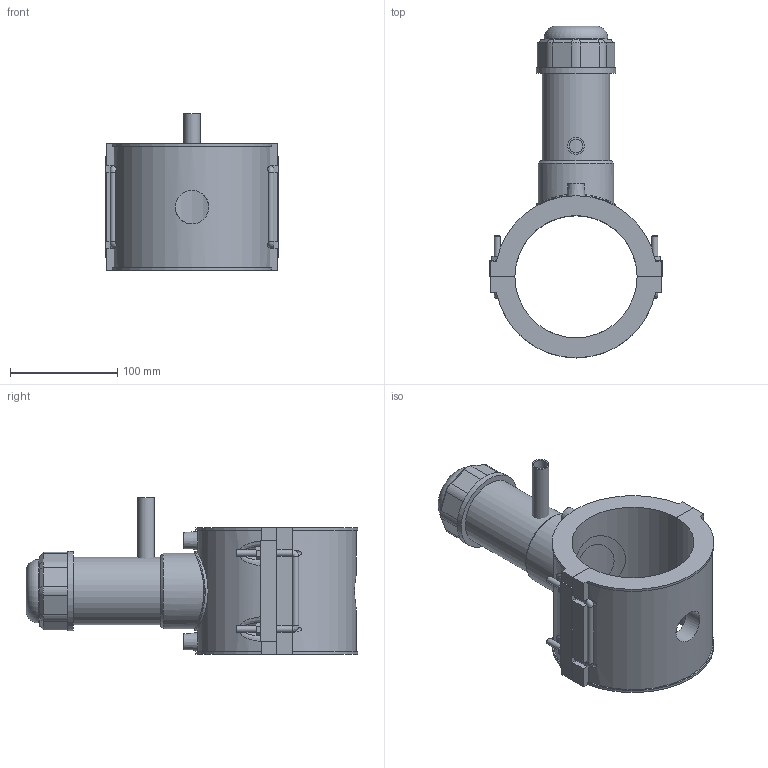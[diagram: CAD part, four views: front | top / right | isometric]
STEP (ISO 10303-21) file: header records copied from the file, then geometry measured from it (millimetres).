
FILE_DESCRIPTION(/* description */ ('PLASSON TAPPING SADDLE 4''''IPS x 1/2''''CTS'),/* implementation_level */ '2;1');
FILE_NAME(/* name */ 'C:\Dropbox\KIMPROJECTS-Inventor 2019\99-16-3568-Processing Inch\ASTM ElectroFusion 2021\5963BBP_5963BUP\5963BUP3040005.ipt.stp',/* time_stamp */ '2021-08-30T09:57:45+03:00',/* author */ ('KIM'),/* organization */ (''),/* preprocessor_version */ 'ST-DEVELOPER v17.2',/* originating_system */ 'Autodesk Inventor 2019',/* authorisation */ '');
FILE_SCHEMA (('AUTOMOTIVE_DESIGN { 1 0 10303 214 3 1 1 }'));
Length unit declared in the file: inch
Products named in the file (1): 5963BUP3040005
Bounding box: 161 x 309.74 x 146.43 mm (x, y, z)
Volume: 1225499 mm3; surface area: 212912.7 mm2
Topology: 3 solids, 3 shells, 195 faces, 500 edges, 321 vertices
Faces by surface type: plane 112, cylinder 54, cone 15, bspline 13, torus 1
Full cylindrical faces by diameter (mm): 4 x2, 6 x8, 10 x2, 12.64 x1, 15.8 x1, 31.36 x1, 51.915 x1, 59.332 x1, 63.04 x1, 70.457 x1, 74.165 x2
Entity records: 7084 total; most frequent: CARTESIAN_POINT 2337, ORIENTED_EDGE 984, DIRECTION 951, EDGE_CURVE 492, AXIS2_PLACEMENT_3D 325, VERTEX_POINT 321, LINE 301, VECTOR 301
